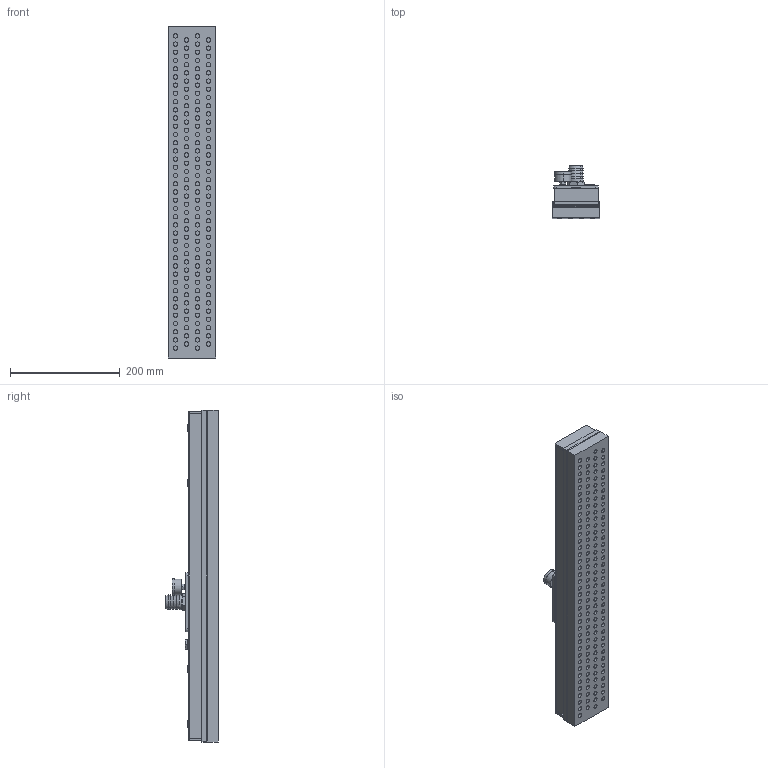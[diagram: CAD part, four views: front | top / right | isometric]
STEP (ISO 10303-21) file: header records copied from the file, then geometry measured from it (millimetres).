
FILE_DESCRIPTION (( 'STEP AP214' ), '1' );
FILE_NAME ('9671 060 015.STEP', '2012-09-03T14:00:27', ( 'cad' ), ( 'Microsoft' ), 'SwSTEP 2.0', 'SolidWorks 2012', '' );
FILE_SCHEMA (( 'AUTOMOTIVE_DESIGN' ));
Length unit declared in the file: millimetre
Products named in the file (1): 9671 060 015
Bounding box: 86 x 96.5 x 606 mm (x, y, z)
Volume: 2624580 mm3; surface area: 306153.6 mm2
Topology: 1 solids, 1 shells, 800 faces, 1707 edges, 1102 vertices
Faces by surface type: cylinder 388, plane 356, cone 34, bspline 14, torus 8
Entity records: 29510 total; most frequent: CARTESIAN_POINT 4492, DIRECTION 4041, ORIENTED_EDGE 3414, EDGE_CURVE 1707, AXIS2_PLACEMENT_3D 1619, VERTEX_POINT 1102, EDGE_LOOP 993, CIRCLE 832
